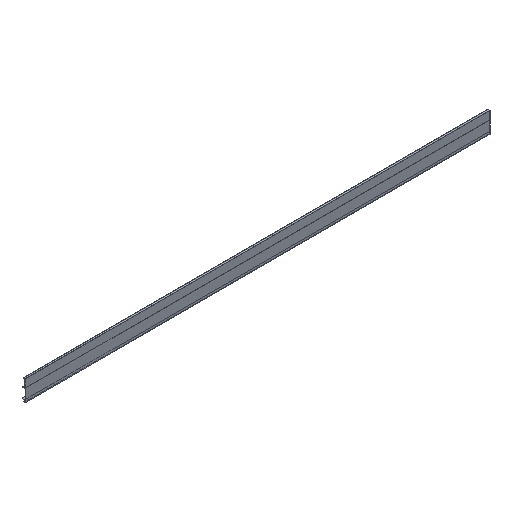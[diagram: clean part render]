
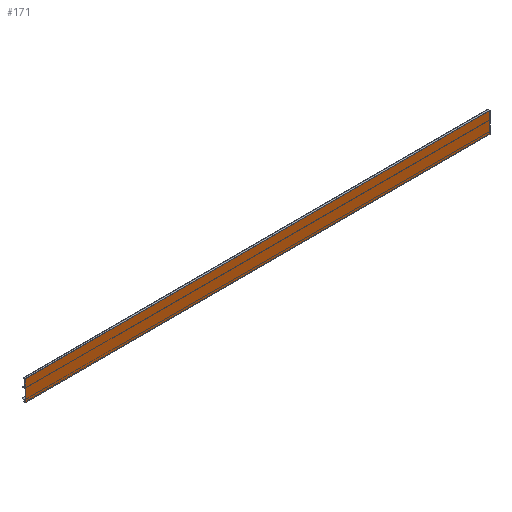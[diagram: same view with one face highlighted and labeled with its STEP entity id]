
A CAD part, isometric view. The second image highlights one B-rep face of the part: STEP entity #171.
In plain terms, the highlighted planar face has unit normal (0, -1, 0).
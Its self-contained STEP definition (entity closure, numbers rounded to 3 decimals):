
#171=ADVANCED_FACE('',(#360),#361,.T.);
#360=FACE_OUTER_BOUND('',#560,.T.);
#361=PLANE('',#561);
#560=EDGE_LOOP('',(#1004,#1005,#1006,#1007));
#561=AXIS2_PLACEMENT_3D('',#1008,#1009,#1010);
#1004=ORIENTED_EDGE('',*,*,#1372,.T.);
#1005=ORIENTED_EDGE('',*,*,#1373,.T.);
#1006=ORIENTED_EDGE('',*,*,#1374,.F.);
#1007=ORIENTED_EDGE('',*,*,#1375,.F.);
#1008=CARTESIAN_POINT('',(2500.0,0.,-89.0));
#1009=DIRECTION('',(0.,-1.0,0.));
#1010=DIRECTION('',(0.,0.,1.0));
#1372=EDGE_CURVE('',#1682,#1683,#1684,.T.);
#1373=EDGE_CURVE('',#1683,#1685,#1686,.T.);
#1374=EDGE_CURVE('',#1687,#1685,#1688,.T.);
#1375=EDGE_CURVE('',#1682,#1687,#1689,.T.);
#1682=VERTEX_POINT('',#2102);
#1683=VERTEX_POINT('',#2103);
#1684=LINE('',#2104,#2105);
#1685=VERTEX_POINT('',#2106);
#1686=LINE('',#2107,#2108);
#1687=VERTEX_POINT('',#2109);
#1688=LINE('',#2110,#2111);
#1689=LINE('',#2112,#2113);
#2102=CARTESIAN_POINT('',(2000.0,0.,-89.0));
#2103=CARTESIAN_POINT('',(2000.0,0.,0.0));
#2104=CARTESIAN_POINT('',(2000.0,0.,-89.0));
#2105=VECTOR('',#2458,1.0);
#2106=CARTESIAN_POINT('',(0.0,0.,0.0));
#2107=CARTESIAN_POINT('',(2500.0,0.,0.0));
#2108=VECTOR('',#2459,1.0);
#2109=CARTESIAN_POINT('',(0.0,0.,-89.0));
#2110=CARTESIAN_POINT('',(0.0,0.,-89.0));
#2111=VECTOR('',#2460,1.0);
#2112=CARTESIAN_POINT('',(2500.0,0.,-89.0));
#2113=VECTOR('',#2461,1.0);
#2458=DIRECTION('',(0.,0.,1.0));
#2459=DIRECTION('',(-1.0,0.,0.));
#2460=DIRECTION('',(0.,0.,1.0));
#2461=DIRECTION('',(-1.0,0.,0.));
